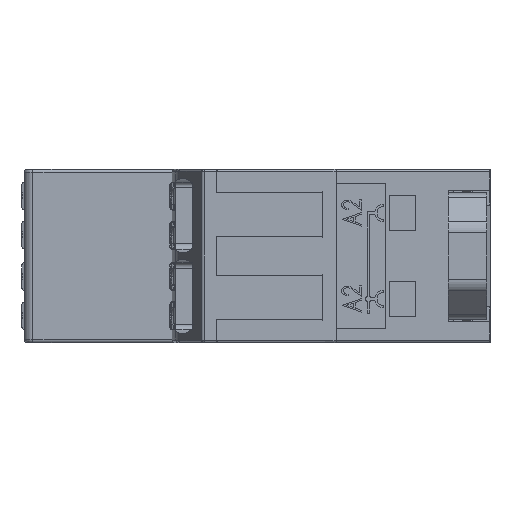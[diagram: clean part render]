
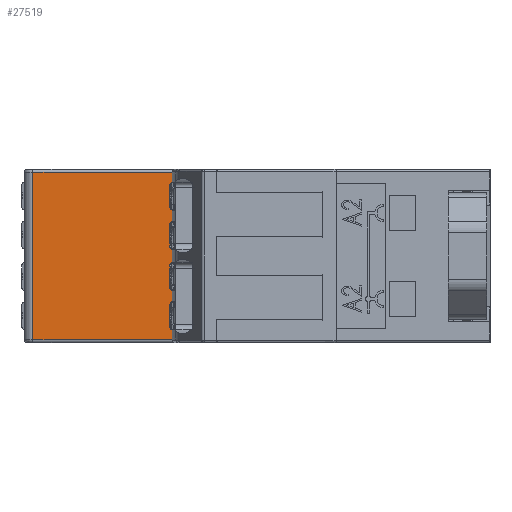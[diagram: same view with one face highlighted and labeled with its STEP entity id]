
A CAD part, left-side view. The second image highlights one B-rep face of the part: STEP entity #27519.
In plain terms, the highlighted planar face has unit normal (-1, 0, 0).
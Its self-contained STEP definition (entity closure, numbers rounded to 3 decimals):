
#386 = CARTESIAN_POINT ( 'NONE',  ( 4.24, 3.942, -52.269 ) ) ;
#413 = ORIENTED_EDGE ( 'NONE', *, *, #27315, .F. ) ;
#672 = VECTOR ( 'NONE', #31548, 1000. ) ;
#830 = ORIENTED_EDGE ( 'NONE', *, *, #42836, .T. ) ;
#878 = DIRECTION ( 'NONE',  ( 1., 0., 0. ) ) ;
#2016 = VERTEX_POINT ( 'NONE', #20256 ) ;
#2699 = VECTOR ( 'NONE', #27152, 1000. ) ;
#3203 = DIRECTION ( 'NONE',  ( 1., 0., 0. ) ) ;
#3755 = DIRECTION ( 'NONE',  ( 0., 1., 0. ) ) ;
#4544 = CARTESIAN_POINT ( 'NONE',  ( 4.24, 16.642, -66.569 ) ) ;
#4745 = EDGE_CURVE ( 'NONE', #2016, #32759, #37484, .T. ) ;
#4841 = ORIENTED_EDGE ( 'NONE', *, *, #4745, .T. ) ;
#5503 = VECTOR ( 'NONE', #3755, 1000. ) ;
#6219 = LINE ( 'NONE', #36416, #41758 ) ;
#6508 = DIRECTION ( 'NONE',  ( 0., 0., -1. ) ) ;
#7985 = VERTEX_POINT ( 'NONE', #11908 ) ;
#9448 = VERTEX_POINT ( 'NONE', #37706 ) ;
#9703 = LINE ( 'NONE', #4544, #17513 ) ;
#9709 = VERTEX_POINT ( 'NONE', #13849 ) ;
#9776 = CARTESIAN_POINT ( 'NONE',  ( 4.24, 3.942, -50.719 ) ) ;
#10181 = EDGE_CURVE ( 'NONE', #7985, #16902, #6219, .T. ) ;
#10349 = AXIS2_PLACEMENT_3D ( 'NONE', #34723, #14727, #38065 ) ;
#10465 = CARTESIAN_POINT ( 'NONE',  ( 4.24, 3.942, -65.019 ) ) ;
#11181 = CARTESIAN_POINT ( 'NONE',  ( 4.24, 3.692, -52.269 ) ) ;
#11908 = CARTESIAN_POINT ( 'NONE',  ( 4.24, 3.942, -52.519 ) ) ;
#13653 = CARTESIAN_POINT ( 'NONE',  ( 4.24, 3.692, -65.019 ) ) ;
#13721 = EDGE_CURVE ( 'NONE', #7985, #31553, #18975, .T. ) ;
#13849 = CARTESIAN_POINT ( 'NONE',  ( 4.24, -2.958, -51.019 ) ) ;
#14402 = LINE ( 'NONE', #386, #5503 ) ;
#14727 = DIRECTION ( 'NONE',  ( 1., 0., 0. ) ) ;
#16078 = EDGE_CURVE ( 'NONE', #33988, #9709, #20419, .T. ) ;
#16493 = PLANE ( 'NONE',  #26163 ) ;
#16555 = DIRECTION ( 'NONE',  ( 0., 0., -1. ) ) ;
#16902 = VERTEX_POINT ( 'NONE', #16937 ) ;
#16937 = CARTESIAN_POINT ( 'NONE',  ( 4.24, 3.942, -64.769 ) ) ;
#17059 = ORIENTED_EDGE ( 'NONE', *, *, #16078, .T. ) ;
#17366 = CARTESIAN_POINT ( 'NONE',  ( 4.24, -3.108, -66.269 ) ) ;
#17395 = CARTESIAN_POINT ( 'NONE',  ( 4.24, 3.942, -51.019 ) ) ;
#17513 = VECTOR ( 'NONE', #6508, 1000. ) ;
#18139 = LINE ( 'NONE', #10465, #24944 ) ;
#18912 = CARTESIAN_POINT ( 'NONE',  ( 4.24, 16.642, -51.019 ) ) ;
#18975 = CIRCLE ( 'NONE', #29870, 0.25 ) ;
#19367 = CARTESIAN_POINT ( 'NONE',  ( 4.24, -2.958, -66.269 ) ) ;
#19448 = LINE ( 'NONE', #28172, #672 ) ;
#19613 = EDGE_CURVE ( 'NONE', #9709, #23453, #26926, .T. ) ;
#20256 = CARTESIAN_POINT ( 'NONE',  ( 4.24, 16.642, -66.269 ) ) ;
#20419 = LINE ( 'NONE', #23634, #2699 ) ;
#20847 = CARTESIAN_POINT ( 'NONE',  ( 4.24, 3.692, -52.519 ) ) ;
#21236 = CARTESIAN_POINT ( 'NONE',  ( 4.24, -2.958, -52.269 ) ) ;
#23453 = VERTEX_POINT ( 'NONE', #18912 ) ;
#23634 = CARTESIAN_POINT ( 'NONE',  ( 4.24, -2.958, -52.269 ) ) ;
#24219 = DIRECTION ( 'NONE',  ( 0., 0., -1. ) ) ;
#24944 = VECTOR ( 'NONE', #27089, 1000. ) ;
#25418 = ORIENTED_EDGE ( 'NONE', *, *, #19613, .T. ) ;
#25880 = VECTOR ( 'NONE', #30703, 1000. ) ;
#26163 = AXIS2_PLACEMENT_3D ( 'NONE', #9776, #3203, #26545 ) ;
#26545 = DIRECTION ( 'NONE',  ( 0., 1., 0. ) ) ;
#26580 = ORIENTED_EDGE ( 'NONE', *, *, #37784, .F. ) ;
#26926 = LINE ( 'NONE', #17395, #25880 ) ;
#27089 = DIRECTION ( 'NONE',  ( 0., -1., 0. ) ) ;
#27152 = DIRECTION ( 'NONE',  ( 0., 0., 1. ) ) ;
#27315 = EDGE_CURVE ( 'NONE', #9448, #32759, #19448, .T. ) ;
#27519 = ADVANCED_FACE ( 'NONE', ( #28859 ), #16493, .F. ) ;
#28172 = CARTESIAN_POINT ( 'NONE',  ( 4.24, -2.958, -65.019 ) ) ;
#28859 = FACE_OUTER_BOUND ( 'NONE', #39031, .T. ) ;
#29650 = VECTOR ( 'NONE', #40757, 1000. ) ;
#29870 = AXIS2_PLACEMENT_3D ( 'NONE', #20847, #878, #24219 ) ;
#30703 = DIRECTION ( 'NONE',  ( 0., 1., 0. ) ) ;
#31488 = EDGE_CURVE ( 'NONE', #40556, #9448, #18139, .T. ) ;
#31548 = DIRECTION ( 'NONE',  ( 0., 0., -1. ) ) ;
#31553 = VERTEX_POINT ( 'NONE', #11181 ) ;
#31575 = ORIENTED_EDGE ( 'NONE', *, *, #31488, .F. ) ;
#32462 = ORIENTED_EDGE ( 'NONE', *, *, #37673, .T. ) ;
#32759 = VERTEX_POINT ( 'NONE', #19367 ) ;
#33988 = VERTEX_POINT ( 'NONE', #21236 ) ;
#34723 = CARTESIAN_POINT ( 'NONE',  ( 4.24, 3.692, -64.769 ) ) ;
#35668 = CIRCLE ( 'NONE', #10349, 0.25 ) ;
#36416 = CARTESIAN_POINT ( 'NONE',  ( 4.24, 3.942, -50.719 ) ) ;
#37484 = LINE ( 'NONE', #17366, #29650 ) ;
#37673 = EDGE_CURVE ( 'NONE', #23453, #2016, #9703, .T. ) ;
#37706 = CARTESIAN_POINT ( 'NONE',  ( 4.24, -2.958, -65.019 ) ) ;
#37784 = EDGE_CURVE ( 'NONE', #33988, #31553, #14402, .T. ) ;
#38065 = DIRECTION ( 'NONE',  ( 0., 0., -1. ) ) ;
#38543 = ORIENTED_EDGE ( 'NONE', *, *, #10181, .F. ) ;
#39031 = EDGE_LOOP ( 'NONE', ( #32462, #4841, #413, #31575, #830, #38543, #39120, #26580, #17059, #25418 ) ) ;
#39120 = ORIENTED_EDGE ( 'NONE', *, *, #13721, .T. ) ;
#40556 = VERTEX_POINT ( 'NONE', #13653 ) ;
#40757 = DIRECTION ( 'NONE',  ( 0., -1., 0. ) ) ;
#41758 = VECTOR ( 'NONE', #16555, 1000. ) ;
#42836 = EDGE_CURVE ( 'NONE', #40556, #16902, #35668, .T. ) ;
